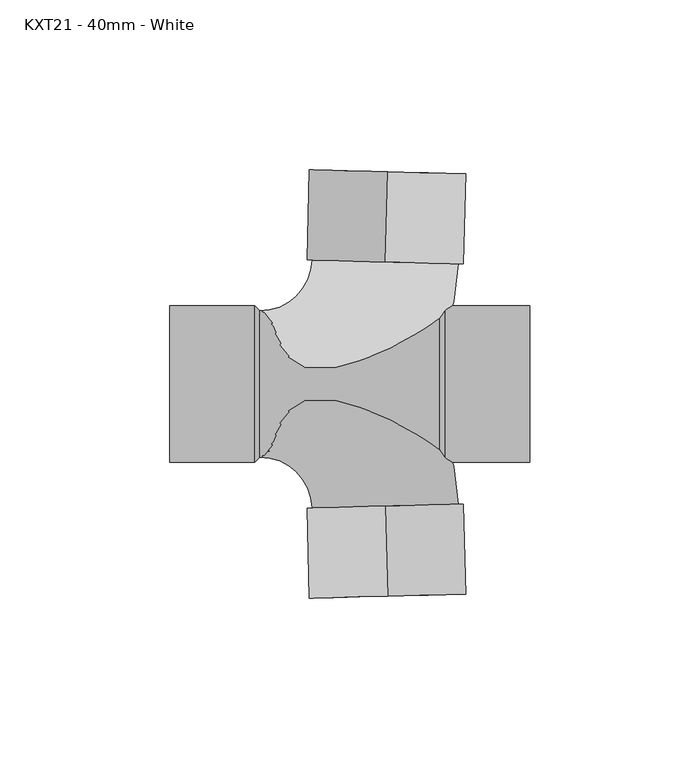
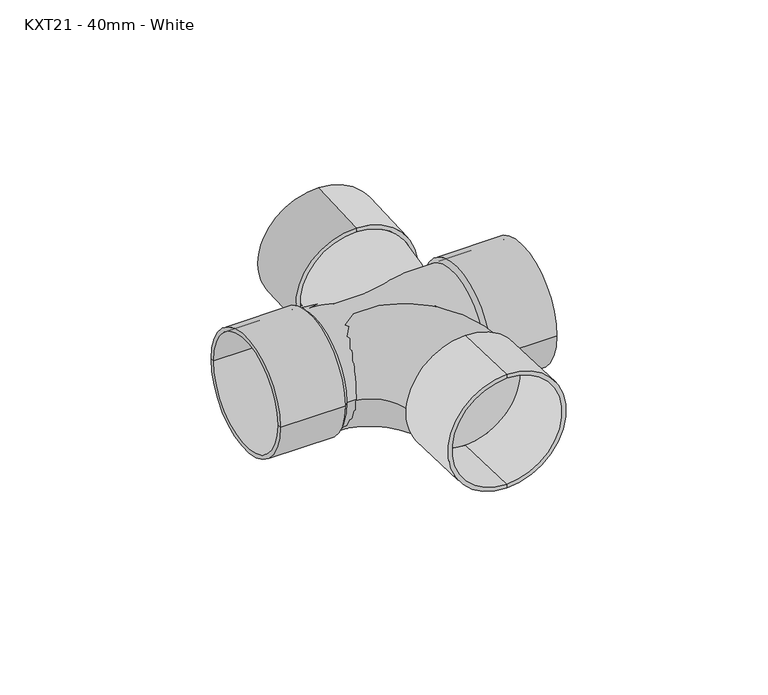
"""IFC4 building model written with IfcOpenShell, lengths in millimetres: pipe fitting geometry, MarleyPlumbingAndDrainage_PipeFitting_CrossTee88.5 : KXT21 - 40mm - White."""

from ifc_helpers import new_model, si_unit, point, frame, origin, place, context, project, spatial, polyline, circle_curve, ellipse_curve, trimmed, source, transform, mapped, element, save
from ifc_brep_helpers import plane_surface, cylinder_surface, revolved_surface, advanced_brep


def kxt21_40mm_white_e69484c4(model_context):
    return source(origin(), model_context, "Body", "AdvancedBrep", [
        advanced_brep(
        [(0.0678678, 62.4249897, -21.5), (0.0678678, 62.4249897, 21.5), (0.0678678, 62.4249897, 23.0), (0.0678678, 62.4249897, -23.0), (-0.6258213, 35.9340706, -21.5), (-0.6258213, 35.9340706, 21.5), (-0.6258213, 35.9340706, -23.0), (-0.6258213, 35.9340706, 23.0)],
        [
            (0, 1, circle_curve(frame((0.0678678, 62.4249897, 0.0), z_axis=(-0.02617694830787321, -0.9996573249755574, 0.0), x_axis=(0.0, 0.0, 1.0)), 21.5)),
            (1, 2),
            (2, 3, circle_curve(frame((0.0678678, 62.4249897, 0.0), z_axis=(0.02617694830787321, 0.9996573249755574, 0.0), x_axis=(0.0, 0.0, 1.0)), 23.0)),
            (3, 0),
            (1, 0, circle_curve(frame((0.0678678, 62.4249897, 0.0), z_axis=(-0.02617694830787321, -0.9996573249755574, 0.0), x_axis=(0.0, 0.0, 1.0)), 21.5)),
            (3, 2, circle_curve(frame((0.0678678, 62.4249897, 0.0), z_axis=(0.02617694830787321, 0.9996573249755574, 0.0), x_axis=(0.0, 0.0, 1.0)), 23.0)),
            (4, 5, circle_curve(frame((-0.6258213, 35.9340706, 0.0), z_axis=(-0.02617694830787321, -0.9996573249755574, 0.0), x_axis=(0.0, 0.0, 1.0)), 21.5)),
            (5, 1),
            (0, 4),
            (5, 4, circle_curve(frame((-0.6258213, 35.9340706, 0.0), z_axis=(-0.02617694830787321, -0.9996573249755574, 0.0), x_axis=(0.0, 0.0, 1.0)), 21.5)),
            (6, 7, circle_curve(frame((-0.6258213, 35.9340706, 0.0), z_axis=(-0.02617694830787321, -0.9996573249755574, 0.0), x_axis=(0.0, 0.0, 1.0)), 23.0)),
            (7, 5),
            (4, 6),
            (7, 6, circle_curve(frame((-0.6258213, 35.9340706, 0.0), z_axis=(-0.02617694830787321, -0.9996573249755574, 0.0), x_axis=(0.0, 0.0, 1.0)), 23.0)),
            (2, 7),
            (6, 3),
        ],
        [
            plane_surface(frame((0.0678678, 62.4249897, 0.0), z_axis=(0.02617694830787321, 0.9996573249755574, 0.0), x_axis=(0.0, 0.0, 1.0))),
            revolved_surface(polyline([(0.06786782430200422, 62.42498969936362, 21.5), (-0.6258213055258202, 35.93407060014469, 21.5)]), (1.0621479, 100.3950139, 0.0), (0.02617694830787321, 0.9996573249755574, 0.0)),
            plane_surface(frame((-0.6258213, 35.9340706, 0.0), z_axis=(-0.02617694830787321, -0.9996573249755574, 0.0), x_axis=(0.0, 0.0, 1.0))),
            cylinder_surface(frame((1.0621479, 100.3950139, 0.0), z_axis=(0.02617694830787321, 0.9996573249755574, 0.0), x_axis=(0.0, 0.0, 1.0)), 23.0),
        ],
        [
            (0, [[1, 2, 3, 4]]),
            (0, [[5, -4, 6, -2]]),
            (1, [[7, 8, -1, 9]]),
            (1, [[10, -9, -5, -8]]),
            (2, [[11, 12, -7, 13]]),
            (2, [[14, -13, -10, -12]]),
            (3, [[-3, 15, -11, 16]]),
            (3, [[-6, -16, -14, -15]]),
        ],
    ),
        advanced_brep(
        [(0.0678678, -62.4249897, -21.5), (0.0678678, -62.4249897, 21.5), (0.0678678, -62.4249897, 23.0), (0.0678678, -62.4249897, -23.0), (-0.6258213, -35.9340706, -21.5), (-0.6258213, -35.9340706, 21.5), (-0.6258213, -35.9340706, -23.0), (-0.6258213, -35.9340706, 23.0)],
        [
            (0, 1, circle_curve(frame((0.0678678, -62.4249897, 0.0), z_axis=(-0.02617694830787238, 0.9996573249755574, 0.0), x_axis=(0.0, 0.0, 1.0)), 21.5)),
            (1, 2),
            (2, 3, circle_curve(frame((0.0678678, -62.4249897, 0.0), z_axis=(0.02617694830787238, -0.9996573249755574, 0.0), x_axis=(0.0, 0.0, 1.0)), 23.0)),
            (3, 0),
            (1, 0, circle_curve(frame((0.0678678, -62.4249897, 0.0), z_axis=(-0.02617694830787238, 0.9996573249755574, 0.0), x_axis=(0.0, 0.0, 1.0)), 21.5)),
            (3, 2, circle_curve(frame((0.0678678, -62.4249897, 0.0), z_axis=(0.02617694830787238, -0.9996573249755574, 0.0), x_axis=(0.0, 0.0, 1.0)), 23.0)),
            (4, 5, circle_curve(frame((-0.6258213, -35.9340706, 0.0), z_axis=(-0.02617694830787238, 0.9996573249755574, 0.0), x_axis=(0.0, 0.0, 1.0)), 21.5)),
            (5, 1),
            (0, 4),
            (5, 4, circle_curve(frame((-0.6258213, -35.9340706, 0.0), z_axis=(-0.02617694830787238, 0.9996573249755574, 0.0), x_axis=(0.0, 0.0, 1.0)), 21.5)),
            (6, 7, circle_curve(frame((-0.6258213, -35.9340706, 0.0), z_axis=(-0.02617694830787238, 0.9996573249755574, 0.0), x_axis=(0.0, 0.0, 1.0)), 23.0)),
            (7, 5),
            (4, 6),
            (7, 6, circle_curve(frame((-0.6258213, -35.9340706, 0.0), z_axis=(-0.02617694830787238, 0.9996573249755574, 0.0), x_axis=(0.0, 0.0, 1.0)), 23.0)),
            (2, 7),
            (6, 3),
        ],
        [
            plane_surface(frame((0.0678678, -62.4249897, 0.0), z_axis=(0.02617694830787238, -0.9996573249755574, 0.0), x_axis=(0.0, 0.0, 1.0))),
            revolved_surface(polyline([(0.06786782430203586, -62.42498969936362, 21.5), (-0.6258213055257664, -35.93407060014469, 21.5)]), (1.0621479, -100.3950139, 0.0), (0.02617694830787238, -0.9996573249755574, 0.0)),
            plane_surface(frame((-0.6258213, -35.9340706, 0.0), z_axis=(-0.02617694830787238, 0.9996573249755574, 0.0), x_axis=(0.0, 0.0, 1.0))),
            cylinder_surface(frame((1.0621479, -100.3950139, 0.0), z_axis=(0.02617694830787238, -0.9996573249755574, 0.0), x_axis=(0.0, 0.0, 1.0)), 23.0),
        ],
        [
            (0, [[1, 2, 3, 4]]),
            (0, [[5, -4, 6, -2]]),
            (1, [[7, 8, -1, 9]]),
            (1, [[10, -9, -5, -8]]),
            (2, [[11, 12, -7, 13]]),
            (2, [[14, -13, -10, -12]]),
            (3, [[-3, 15, -11, 16]]),
            (3, [[-6, -16, -14, -15]]),
        ],
    ),
        advanced_brep(
        [(-64.0131766, -21.5, 0.0), (-64.0131766, 21.5, 0.0), (-64.0131766, 23.0, 0.0), (-64.0131766, -23.0, 0.0), (-39.0131766, -21.5, 0.0), (-39.0131766, 21.5, 0.0), (-39.0131766, 0.0, 0.0), (16.9868234, -21.5, 0.0), (16.9868234, 21.5, 0.0), (16.9868234, 0.0, 0.0), (41.9868234, -21.5, 0.0), (41.9868234, 21.5, 0.0), (41.9868234, -23.0, 0.0), (41.9868234, 23.0, 0.0), (16.9868234, -23.0, 0.0), (16.9868234, 23.0, 0.0), (15.4868234, -21.5, 0.0), (15.4868234, 21.5, 0.0), (-37.5131766, -21.5, 0.0), (-37.5131766, 21.5, 0.0), (-39.0131766, -23.0, 0.0), (-39.0131766, 23.0, 0.0)],
        [
            (0, 1, circle_curve(frame((-64.0131766, 0.0, 0.0), z_axis=(1.0, 0.0, 0.0), x_axis=(0.0, 1.0, 0.0)), 21.5)),
            (1, 2),
            (2, 3, circle_curve(frame((-64.0131766, 0.0, 0.0), z_axis=(-1.0, 0.0, 0.0), x_axis=(0.0, 1.0, 0.0)), 23.0)),
            (3, 0),
            (1, 0, circle_curve(frame((-64.0131766, 0.0, 0.0), z_axis=(1.0, 0.0, 0.0), x_axis=(0.0, 1.0, 0.0)), 21.5)),
            (3, 2, circle_curve(frame((-64.0131766, 0.0, 0.0), z_axis=(-1.0, 0.0, 0.0), x_axis=(0.0, 1.0, 0.0)), 23.0)),
            (4, 5, circle_curve(frame((-39.0131766, 0.0, 0.0), z_axis=(1.0, 0.0, 0.0), x_axis=(0.0, 1.0, 0.0)), 21.5)),
            (5, 1),
            (0, 4),
            (5, 4, circle_curve(frame((-39.0131766, 0.0, 0.0), z_axis=(1.0, 0.0, 0.0), x_axis=(0.0, 1.0, 0.0)), 21.5)),
            (6, 5),
            (4, 6),
            (7, 8, circle_curve(frame((16.9868234, 0.0, 0.0), z_axis=(1.0, 0.0, 0.0), x_axis=(0.0, 1.0, 0.0)), 21.5)),
            (8, 9),
            (9, 7),
            (8, 7, circle_curve(frame((16.9868234, 0.0, 0.0), z_axis=(1.0, 0.0, 0.0), x_axis=(0.0, 1.0, 0.0)), 21.5)),
            (10, 11, circle_curve(frame((41.9868234, 0.0, 0.0), z_axis=(1.0, 0.0, 0.0), x_axis=(0.0, 1.0, 0.0)), 21.5)),
            (11, 8),
            (7, 10),
            (11, 10, circle_curve(frame((41.9868234, 0.0, 0.0), z_axis=(1.0, 0.0, 0.0), x_axis=(0.0, 1.0, 0.0)), 21.5)),
            (12, 13, circle_curve(frame((41.9868234, 0.0, 0.0), z_axis=(1.0, 0.0, 0.0), x_axis=(0.0, 1.0, 0.0)), 23.0)),
            (13, 11),
            (10, 12),
            (13, 12, circle_curve(frame((41.9868234, 0.0, 0.0), z_axis=(1.0, 0.0, 0.0), x_axis=(0.0, 1.0, 0.0)), 23.0)),
            (14, 15, circle_curve(frame((16.9868234, 0.0, 0.0), z_axis=(1.0, 0.0, 0.0), x_axis=(0.0, 1.0, 0.0)), 23.0)),
            (15, 13),
            (12, 14),
            (15, 14, circle_curve(frame((16.9868234, 0.0, 0.0), z_axis=(1.0, 0.0, 0.0), x_axis=(0.0, 1.0, 0.0)), 23.0)),
            (16, 17, circle_curve(frame((15.4868234, 0.0, 0.0), z_axis=(1.0, 0.0, 0.0), x_axis=(0.0, 1.0, 0.0)), 21.5)),
            (17, 15),
            (14, 16),
            (17, 16, circle_curve(frame((15.4868234, 0.0, 0.0), z_axis=(1.0, 0.0, 0.0), x_axis=(0.0, 1.0, 0.0)), 21.5)),
            (18, 19, circle_curve(frame((-37.5131766, 0.0, 0.0), z_axis=(1.0, 0.0, 0.0), x_axis=(0.0, 1.0, 0.0)), 21.5)),
            (19, 17),
            (16, 18),
            (19, 18, circle_curve(frame((-37.5131766, 0.0, 0.0), z_axis=(1.0, 0.0, 0.0), x_axis=(0.0, 1.0, 0.0)), 21.5)),
            (20, 21, circle_curve(frame((-39.0131766, 0.0, 0.0), z_axis=(1.0, 0.0, 0.0), x_axis=(0.0, 1.0, 0.0)), 23.0)),
            (21, 19),
            (18, 20),
            (21, 20, circle_curve(frame((-39.0131766, 0.0, 0.0), z_axis=(1.0, 0.0, 0.0), x_axis=(0.0, 1.0, 0.0)), 23.0)),
            (2, 21),
            (20, 3),
        ],
        [
            plane_surface(frame((-64.0131766, 0.0, 0.0), z_axis=(-1.0, 0.0, 0.0), x_axis=(0.0, 1.0, 0.0))),
            revolved_surface(polyline([(-64.01317659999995, 21.5, 0.0), (-39.01317659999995, 21.5, 0.0)]), (1973.5536115, 0.0, 0.0), (-1.0, 0.0, 0.0)),
            plane_surface(frame((-39.0131766, 0.0, 0.0), z_axis=(-1.0, 0.0, 0.0), x_axis=(0.0, 1.0, 0.0))),
            plane_surface(frame((16.9868234, 0.0, 0.0), z_axis=(1.0, 0.0, 0.0), x_axis=(0.0, 1.0, 0.0))),
            revolved_surface(polyline([(16.98682340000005, 21.5, 0.0), (41.98682340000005, 21.5, 0.0)]), (1973.5536115, 0.0, 0.0), (-1.0, 0.0, 0.0)),
            plane_surface(frame((41.9868234, 0.0, 0.0), z_axis=(1.0, 0.0, 0.0), x_axis=(0.0, 1.0, 0.0))),
            cylinder_surface(frame((1973.5536115, 0.0, 0.0), z_axis=(-1.0, 0.0, 0.0), x_axis=(0.0, 1.0, 0.0)), 23.0),
            revolved_surface(polyline([(16.9868234, 23.0, 0.0), (15.4868234, 21.5, 0.0)]), (1973.5536115, 0.0, 0.0), (-1.0, 0.0, 0.0)),
            cylinder_surface(frame((1973.5536115, 0.0, 0.0), z_axis=(-1.0, 0.0, 0.0), x_axis=(0.0, 1.0, 0.0)), 21.5),
            revolved_surface(polyline([(-37.5131766, 21.5, 0.0), (-39.0131766, 23.0, 0.0)]), (1973.5536115, 0.0, 0.0), (-1.0, 0.0, 0.0)),
        ],
        [
            (0, [[1, 2, 3, 4]]),
            (0, [[5, -4, 6, -2]]),
            (1, [[7, 8, -1, 9]]),
            (1, [[10, -9, -5, -8]]),
            (2, [[11, -7, 12]]),
            (2, [[-12, -10, -11]]),
            (3, [[13, 14, 15]]),
            (3, [[16, -15, -14]]),
            (4, [[17, 18, -13, 19]]),
            (4, [[20, -19, -16, -18]]),
            (5, [[21, 22, -17, 23]]),
            (5, [[24, -23, -20, -22]]),
            (6, [[25, 26, -21, 27]]),
            (6, [[28, -27, -24, -26]]),
            (7, [[29, 30, -25, 31]]),
            (7, [[32, -31, -28, -30]]),
            (8, [[33, 34, -29, 35]]),
            (8, [[36, -35, -32, -34]]),
            (9, [[37, 38, -33, 39]]),
            (9, [[40, -39, -36, -38]]),
            (6, [[-3, 41, -37, 42]]),
            (6, [[-6, -42, -40, -41]]),
        ],
    ),
        advanced_brep(
        [(-37.5131766, -21.5, 0.0), (-37.5131766, 21.5, 0.0), (-22.1184538, -36.496875, 0.0), (20.8668112, -35.3712662, 0.0)],
        [
            (0, 1, circle_curve(frame((-37.5131766, 0.0, 0.0), z_axis=(-1.0, 0.0, 0.0), x_axis=(0.0, 1.0, 0.0)), 21.5)),
            (1, 0, circle_curve(frame((-37.5131766, 0.0, 0.0), z_axis=(-1.0, 0.0, 0.0), x_axis=(0.0, 1.0, 0.0)), 21.5)),
            (2, 3, circle_curve(frame((-0.6258213, -35.9340706, 0.0), z_axis=(0.026176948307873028, -0.9996573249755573, 0.0), x_axis=(0.9996573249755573, 0.026176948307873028, 0.0)), 21.5)),
            (3, 2, circle_curve(frame((-0.6258213, -35.9340706, 0.0), z_axis=(0.026176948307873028, -0.9996573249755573, 0.0), x_axis=(0.9996573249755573, 0.026176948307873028, 0.0)), 21.5)),
            (3, 1, circle_curve(frame((-37.5131766, -36.9, 0.0), z_axis=(0.0, 0.0, 1.0), x_axis=(0.0, 1.0, 0.0)), 58.4)),
            (0, 2, circle_curve(frame((-37.5131766, -36.9, 0.0), z_axis=(0.0, 0.0, -1.0), x_axis=(0.0, 1.0, 0.0)), 15.4)),
        ],
        [
            plane_surface(frame((-37.5131766, 0.0, 0.0), z_axis=(-1.0, 0.0, 0.0), x_axis=(0.0, 0.0, 1.0))),
            plane_surface(frame((-0.6258213, -35.9340706, 0.0), z_axis=(0.0261769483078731, -0.9996573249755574, 0.0), x_axis=(0.0, 0.0, 1.0))),
            revolved_surface(trimmed(ellipse_curve(frame((-37.5131766, 0.0, 0.0), z_axis=(-1.0, 0.0, 0.0), x_axis=(0.0, 1.0, 0.0)), 21.5, 21.5), [point((-37.5131766, -21.5, 0.0))], [point((-37.5131766, 21.5, 0.0))], True, "CARTESIAN"), (-37.5131766, -36.9, 0.0), (0.0, 0.0, -1.0)),
            revolved_surface(trimmed(ellipse_curve(frame((-37.5131766, 0.0, 0.0), z_axis=(-1.0, 0.0, 0.0), x_axis=(0.0, 1.0, 0.0)), 21.5, 21.5), [point((-37.5131766, 21.5, 0.0))], [point((-37.5131766, -21.5, 0.0))], True, "CARTESIAN"), (-37.5131766, -36.9, 0.0), (0.0, 0.0, -1.0)),
        ],
        [
            (0, [[1, 2]]),
            (1, [[3, 4]]),
            (2, [[5, -1, 6, -4]]),
            (3, [[-6, -2, -5, -3]]),
        ],
    ),
        advanced_brep(
        [(-37.5131766, -21.5, 0.0), (-37.5131766, 21.5, 0.0), (20.8668112, 35.3712662, 0.0), (-22.1184538, 36.496875, 0.0)],
        [
            (0, 1, circle_curve(frame((-37.5131766, 0.0, 0.0), z_axis=(-1.0, 0.0, 0.0), x_axis=(0.0, 1.0, 0.0)), 21.5)),
            (1, 0, circle_curve(frame((-37.5131766, 0.0, 0.0), z_axis=(-1.0, 0.0, 0.0), x_axis=(0.0, 1.0, 0.0)), 21.5)),
            (2, 3, circle_curve(frame((-0.6258213, 35.9340706, 0.0), z_axis=(0.026176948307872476, 0.9996573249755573, 0.0), x_axis=(-0.9996573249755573, 0.026176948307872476, 0.0)), 21.5)),
            (3, 2, circle_curve(frame((-0.6258213, 35.9340706, 0.0), z_axis=(0.026176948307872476, 0.9996573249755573, 0.0), x_axis=(-0.9996573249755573, 0.026176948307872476, 0.0)), 21.5)),
            (3, 1, circle_curve(frame((-37.5131766, 36.9, 0.0), z_axis=(0.0, 0.0, -1.0), x_axis=(0.0, -1.0, 0.0)), 15.4)),
            (0, 2, circle_curve(frame((-37.5131766, 36.9, 0.0), z_axis=(0.0, 0.0, 1.0), x_axis=(0.0, -1.0, 0.0)), 58.4)),
        ],
        [
            plane_surface(frame((-37.5131766, 0.0, 0.0), z_axis=(-1.0, 0.0, 0.0), x_axis=(0.0, 0.0, 1.0))),
            plane_surface(frame((-0.6258213, 35.9340706, 0.0), z_axis=(0.02617694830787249, 0.9996573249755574, 0.0), x_axis=(0.0, 0.0, 1.0))),
            revolved_surface(trimmed(ellipse_curve(frame((-37.5131766, 0.0, 0.0), z_axis=(-1.0, 0.0, 0.0), x_axis=(0.0, 1.0, 0.0)), 21.5, 21.5), [point((-37.5131766, -21.5, 0.0))], [point((-37.5131766, 21.5, 0.0))], True, "CARTESIAN"), (-37.5131766, 36.9, 0.0), (0.0, 0.0, 1.0)),
            revolved_surface(trimmed(ellipse_curve(frame((-37.5131766, 0.0, 0.0), z_axis=(-1.0, 0.0, 0.0), x_axis=(0.0, 1.0, 0.0)), 21.5, 21.5), [point((-37.5131766, 21.5, 0.0))], [point((-37.5131766, -21.5, 0.0))], True, "CARTESIAN"), (-37.5131766, 36.9, 0.0), (0.0, 0.0, 1.0)),
        ],
        [
            (0, [[1, 2]]),
            (1, [[3, 4]]),
            (2, [[5, -1, 6, -4]]),
            (3, [[-6, -2, -5, -3]]),
        ],
    ),
    ])


if __name__ == "__main__":
    model = new_model("IFC4")
    model_context = context("Model", 3, world=origin())
    ifc_project = project(units=[si_unit("LENGTHUNIT", "METRE", prefix="MILLI")], contexts=[model_context])
    site = spatial("IfcSite", under=ifc_project)
    building = spatial("IfcBuilding", under=site)
    placement = place(None, origin())
    kxt21_40mm_white_shape = kxt21_40mm_white_e69484c4(model_context)
    element("IfcPipeFitting", 1, ObjectType="MarleyPlumbingAndDrainage_PipeFitting_CrossTee88.5 : KXT21 - 40mm - White", at=placement, inside=building, context=model_context, shape_type="MappedRepresentation", body=[
        mapped(kxt21_40mm_white_shape, transform((0.0, 0.0, 0.0), x_axis=(1.0, 0.0, 0.0), y_axis=(0.0, 1.0, 0.0), z_axis=(0.0, 0.0, 1.0))),
    ])
    save(model, "model.ifc")
